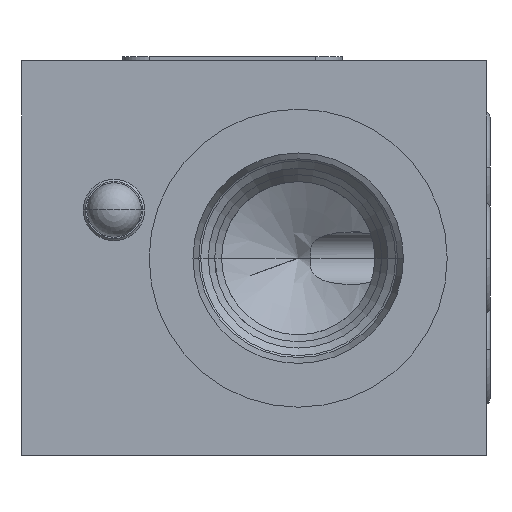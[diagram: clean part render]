
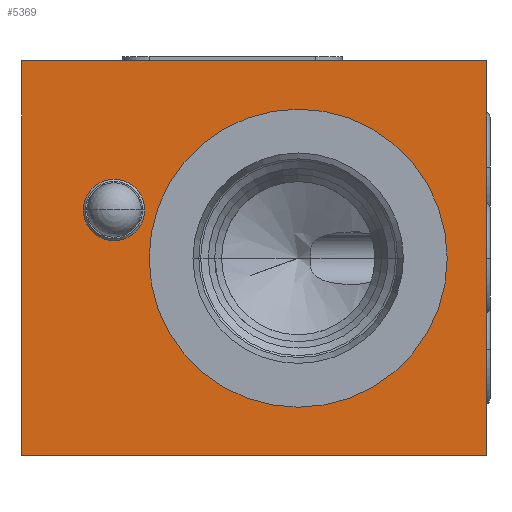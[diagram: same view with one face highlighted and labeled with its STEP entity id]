
A CAD part, left-side view. The second image highlights one B-rep face of the part: STEP entity #5369.
In plain terms, the highlighted planar face has unit normal (-1, 0, 0).
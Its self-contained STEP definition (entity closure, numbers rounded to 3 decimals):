
#53=DIRECTION('',(0.,0.,-1.));
#54=VECTOR('',#53,45.);
#55=CARTESIAN_POINT('',(0.,0.,0.));
#56=LINE('',#55,#54);
#60=DIRECTION('',(0.,1.,0.));
#61=VECTOR('',#60,53.);
#62=CARTESIAN_POINT('',(0.,0.,-45.));
#63=LINE('',#62,#61);
#67=DIRECTION('',(0.,0.,1.));
#68=VECTOR('',#67,45.);
#69=CARTESIAN_POINT('',(0.,53.,-45.));
#70=LINE('',#69,#68);
#74=DIRECTION('',(0.,-1.,0.));
#75=VECTOR('',#74,53.);
#76=CARTESIAN_POINT('',(0.,53.,0.));
#77=LINE('',#76,#75);
#81=CARTESIAN_POINT('',(0.,42.5,-17.));
#82=DIRECTION('',(-1.,0.,0.));
#83=DIRECTION('',(0.,1.,0.));
#84=AXIS2_PLACEMENT_3D('',#81,#82,#83);
#89=CARTESIAN_POINT('',(0.,42.5,-17.));
#90=DIRECTION('',(-1.,0.,0.));
#91=DIRECTION('',(0.,-1.,0.));
#92=AXIS2_PLACEMENT_3D('',#89,#90,#91);
#97=CARTESIAN_POINT('',(0.,21.5,-22.5));
#98=DIRECTION('',(1.,0.,0.));
#99=DIRECTION('',(0.,-1.,0.));
#100=AXIS2_PLACEMENT_3D('',#97,#98,#99);
#105=CARTESIAN_POINT('',(0.,21.5,-22.5));
#106=DIRECTION('',(1.,0.,0.));
#107=DIRECTION('',(0.,1.,0.));
#108=AXIS2_PLACEMENT_3D('',#105,#106,#107);
#4957=CARTESIAN_POINT('',(0.,0.,0.));
#4958=CARTESIAN_POINT('',(0.,0.,-45.));
#4959=VERTEX_POINT('',#4957);
#4960=VERTEX_POINT('',#4958);
#4961=CARTESIAN_POINT('',(0.,53.,-45.));
#4962=VERTEX_POINT('',#4961);
#4963=CARTESIAN_POINT('',(0.,53.,0.));
#4964=VERTEX_POINT('',#4963);
#5134=CARTESIAN_POINT('',(0.,46.,-17.));
#5135=VERTEX_POINT('',#5134);
#5138=CARTESIAN_POINT('',(0.,39.,-17.));
#5139=VERTEX_POINT('',#5138);
#5322=CARTESIAN_POINT('',(0.,4.5,-22.5));
#5323=VERTEX_POINT('',#5322);
#5324=CARTESIAN_POINT('',(0.,38.5,-22.5));
#5325=VERTEX_POINT('',#5324);
#5342=CARTESIAN_POINT('',(0.,0.,0.));
#5343=DIRECTION('',(1.,0.,0.));
#5344=DIRECTION('',(0.,0.,-1.));
#5345=AXIS2_PLACEMENT_3D('',#5342,#5343,#5344);
#5346=PLANE('',#5345);
#5348=ORIENTED_EDGE('',*,*,#5347,.T.);
#5350=ORIENTED_EDGE('',*,*,#5349,.T.);
#5352=ORIENTED_EDGE('',*,*,#5351,.T.);
#5354=ORIENTED_EDGE('',*,*,#5353,.T.);
#5355=EDGE_LOOP('',(#5348,#5350,#5352,#5354));
#5356=FACE_OUTER_BOUND('',#5355,.F.);
#5358=ORIENTED_EDGE('',*,*,#5357,.T.);
#5360=ORIENTED_EDGE('',*,*,#5359,.T.);
#5361=EDGE_LOOP('',(#5358,#5360));
#5362=FACE_BOUND('',#5361,.F.);
#5364=ORIENTED_EDGE('',*,*,#5363,.F.);
#5366=ORIENTED_EDGE('',*,*,#5365,.F.);
#5367=EDGE_LOOP('',(#5364,#5366));
#5368=FACE_BOUND('',#5367,.F.);
#85=CIRCLE('',#84,3.5);
#93=CIRCLE('',#92,3.5);
#101=CIRCLE('',#100,17.);
#109=CIRCLE('',#108,17.);
#5347=EDGE_CURVE('',#4959,#4960,#56,.T.);
#5349=EDGE_CURVE('',#4960,#4962,#63,.T.);
#5351=EDGE_CURVE('',#4962,#4964,#70,.T.);
#5353=EDGE_CURVE('',#4964,#4959,#77,.T.);
#5357=EDGE_CURVE('',#5135,#5139,#85,.T.);
#5359=EDGE_CURVE('',#5139,#5135,#93,.T.);
#5363=EDGE_CURVE('',#5323,#5325,#101,.T.);
#5365=EDGE_CURVE('',#5325,#5323,#109,.T.);
#5369=ADVANCED_FACE('',(#5356,#5362,#5368),#5346,.F.);
